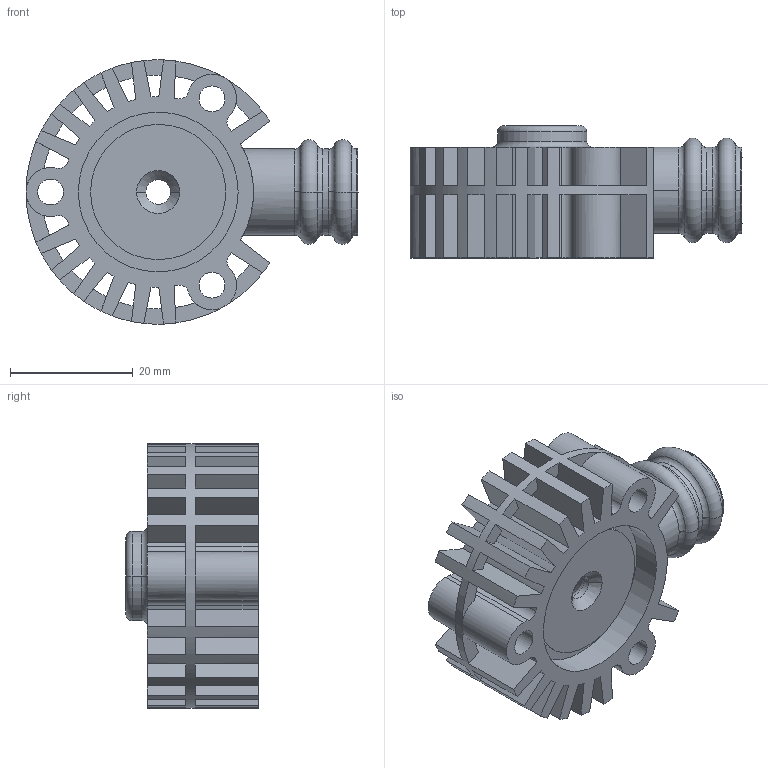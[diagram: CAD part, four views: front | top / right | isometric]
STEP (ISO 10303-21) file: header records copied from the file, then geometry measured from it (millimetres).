
FILE_DESCRIPTION (( 'STEP AP214' ), '1' );
FILE_NAME ('001.step', '2025-12-23T15:53:08', ( '' ), ( '' ), 'SwSTEP 2.0', 'SolidWorks 2026', '' );
FILE_SCHEMA (( 'AUTOMOTIVE_DESIGN' ));
Length unit declared in the file: inch
Products named in the file (1): 001
Bounding box: 54.04 x 21.52 x 43.03 mm (x, y, z)
Volume: 16583.7 mm3; surface area: 12046 mm2
Topology: 1 solids, 1 shells, 199 faces, 629 edges, 409 vertices
Faces by surface type: cylinder 82, plane 79, torus 26, cone 12
Entity records: 7710 total; most frequent: CARTESIAN_POINT 1813, DIRECTION 1303, ORIENTED_EDGE 1258, EDGE_CURVE 629, AXIS2_PLACEMENT_3D 499, VERTEX_POINT 409, VECTOR 305, LINE 305
